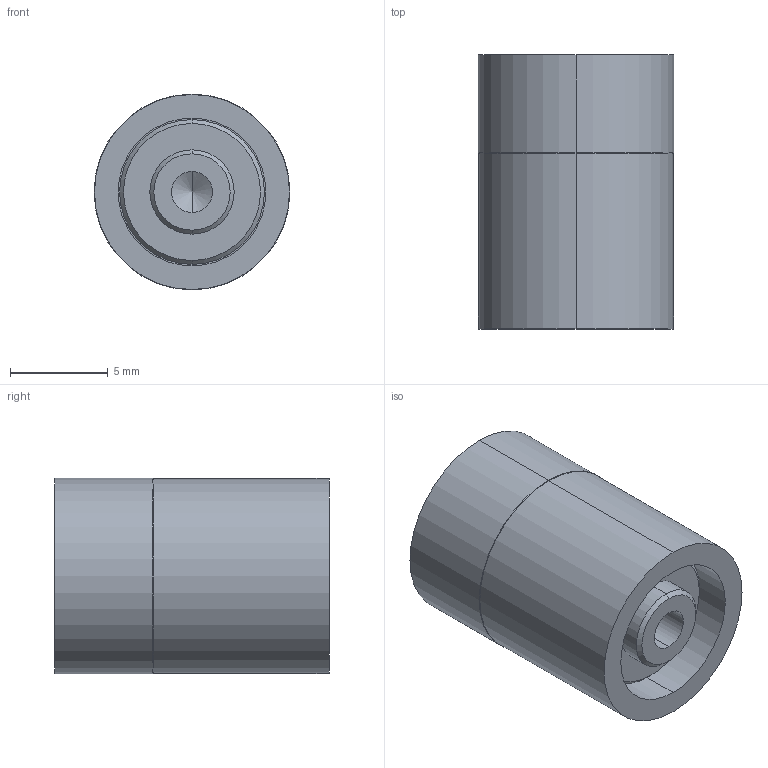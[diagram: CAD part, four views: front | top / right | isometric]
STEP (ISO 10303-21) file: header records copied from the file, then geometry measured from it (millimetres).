
FILE_DESCRIPTION (( 'STEP AP203' ), '1' );
FILE_NAME ('VA10.STEP', '2008-04-21T07:07:30', ( ' ' ), ( ' ' ), 'SwSTEP 2.0', 'SolidWorks 2005204', '' );
FILE_SCHEMA (( 'CONFIG_CONTROL_DESIGN' ));
Length unit declared in the file: millimetre
Products named in the file (1): VA10
Bounding box: 10 x 14 x 10 mm (x, y, z)
Volume: 937.3 mm3; surface area: 1222.3 mm2
Topology: 2 solids, 2 shells, 42 faces, 88 edges, 53 vertices
Faces by surface type: cylinder 20, cone 14, plane 8
Entity records: 1301 total; most frequent: CARTESIAN_POINT 302, DIRECTION 208, ORIENTED_EDGE 172, AXIS2_PLACEMENT_3D 87, EDGE_CURVE 86, VERTEX_POINT 53, EDGE_LOOP 53, CIRCLE 44
